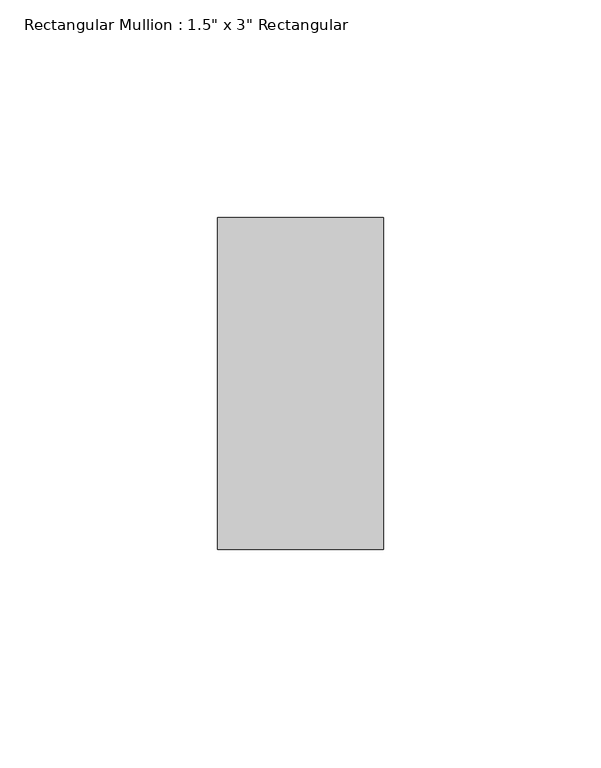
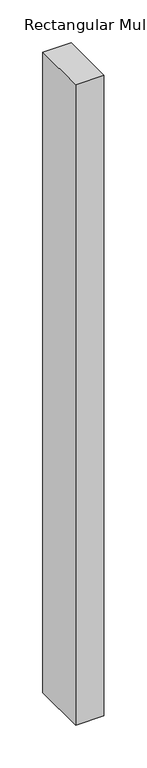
"""IFC4 building model written with IfcOpenShell, lengths in millimetres: member geometry."""

import ifcopenshell
import ifcopenshell.guid

model = None  # the IFC model being written
_history = None  # IfcOwnerHistory: only IFC2X3 demands one
_inside = {}  # id of a spatial element -> (the spatial element, [elements in it])
_under = {}  # id of a project, library or spatial element -> (it, [spatial elements below it])
_declared = {}  # id of a project -> (the project, [libraries it declares])
_typed = {}  # id of a type object -> (the type object, [elements of that type])
_made_of = {}  # id of a material, layer set ... -> (it, [elements and type objects made of it])


def new_model(schema):
    """Start an empty IFC model of exactly this schema.

    Asked for "IFC4X3", IfcOpenShell would pick the latest addendum, in which some entities
    have other attributes; the version numbers below select the first issue.
    IFC2X3 requires an IfcOwnerHistory on every rooted entity: one is made here for all.
    """
    global model, _history
    if schema == "IFC4X3":
        model = ifcopenshell.file(schema_version=(4, 3, 0, 0))
    else:
        model = ifcopenshell.file(schema=schema)
    _inside.clear()
    _under.clear()
    _declared.clear()
    _typed.clear()
    _made_of.clear()
    _history = None
    if model.schema == "IFC2X3":
        org = make("IfcOrganization", Name="unknown")
        user = make(
            "IfcPersonAndOrganization",
            ThePerson=make("IfcPerson", FamilyName="unknown"),
            TheOrganization=org,
        )
        app = make(
            "IfcApplication",
            ApplicationDeveloper=org,
            Version="unknown",
            ApplicationFullName="unknown",
            ApplicationIdentifier="unknown",
        )
        _history = make(
            "IfcOwnerHistory",
            OwningUser=user,
            OwningApplication=app,
            ChangeAction="ADDED",
            CreationDate=0,
        )
    return model


def make(cls, **values):
    """One entity of the class cls with the attributes given. An attribute that is None is left unset."""
    return model.create_entity(
        cls, **{name: value for name, value in values.items() if value is not None}
    )


def rooted(cls, **values):
    """An entity with a GlobalId (a new one), such as an element, a storey or a relation."""
    return make(cls, GlobalId=ifcopenshell.guid.new(), OwnerHistory=_history, **values)


def si_unit(unit_type, name, prefix=None):
    """IfcSIUnit, for example si_unit("LENGTHUNIT", "METRE", prefix="MILLI")."""
    return make("IfcSIUnit", UnitType=unit_type, Prefix=prefix, Name=name)


def assignment(units):
    """IfcUnitAssignment: the units of a project."""
    return None if units is None else make("IfcUnitAssignment", Units=units)


def point(xyz):
    """IfcCartesianPoint."""
    return None if xyz is None else make("IfcCartesianPoint", Coordinates=xyz)


def direction(xyz):
    """IfcDirection."""
    return None if xyz is None else make("IfcDirection", DirectionRatios=xyz)


def frame(location, z_axis=None, x_axis=None):
    """IfcAxis2Placement3D, a coordinate frame: its origin and axes. An axis left out is left unset."""
    return make(
        "IfcAxis2Placement3D",
        Location=point(location),
        Axis=direction(z_axis),
        RefDirection=direction(x_axis),
    )


def origin():
    """The frame at (0, 0, 0) with its axes left unset."""
    return frame((0.0, 0.0, 0.0))


def place(relative_to, where):
    """IfcLocalPlacement: puts the frame where relative to a parent placement (None: the world)."""
    return make(
        "IfcLocalPlacement", PlacementRelTo=relative_to, RelativePlacement=where
    )


def context(
    kind, dimensions, precision=None, world=None, true_north=None, identifier=None
):
    """IfcGeometricRepresentationContext, for example the 3D "Model" context."""
    return make(
        "IfcGeometricRepresentationContext",
        ContextIdentifier=identifier,
        ContextType=kind,
        CoordinateSpaceDimension=dimensions,
        Precision=precision,
        WorldCoordinateSystem=world,
        TrueNorth=true_north,
    )


def project(units=None, contexts=None):
    """IfcProject with its units and contexts."""
    return rooted(
        "IfcProject",
        Name="project",
        RepresentationContexts=contexts,
        UnitsInContext=assignment(units),
    )


def spatial(cls, under=None, at=None, **own):
    """A site, building, storey or space (cls), placed at a placement, below another one or the project."""
    s = rooted(cls, ObjectPlacement=at, **own)
    if under is not None:
        _under.setdefault(under.id(), (under, []))[1].append(s)
    return s


def polyline(points):
    """IfcPolyline through the points."""
    return make("IfcPolyline", Points=[point(p) for p in points])


def outline(outer, holes=None, kind="AREA"):
    """IfcArbitraryClosedProfileDef: a profile drawn as a closed curve; with holes, ...WithVoids."""
    if holes is None:
        return make("IfcArbitraryClosedProfileDef", ProfileType=kind, OuterCurve=outer)
    return make(
        "IfcArbitraryProfileDefWithVoids",
        ProfileType=kind,
        OuterCurve=outer,
        InnerCurves=holes,
    )


def extrude(swept, where, along, depth):
    """IfcExtrudedAreaSolid: the profile swept, set in the frame where, extruded along a direction by depth."""
    return make(
        "IfcExtrudedAreaSolid",
        SweptArea=swept,
        Position=where,
        ExtrudedDirection=direction(along),
        Depth=depth,
    )


def shape(context_of_items, identifier, shape_type, items):
    """IfcShapeRepresentation: the items that make up one representation, for example the "Body"."""
    return make(
        "IfcShapeRepresentation",
        ContextOfItems=context_of_items,
        RepresentationIdentifier=identifier,
        RepresentationType=shape_type,
        Items=items,
    )


def source(mapping_origin, context_of_items, identifier, shape_type, items):
    """IfcRepresentationMap: a shape defined once, which mapped items show again and again."""
    return make(
        "IfcRepresentationMap",
        MappingOrigin=mapping_origin,
        MappedRepresentation=shape(context_of_items, identifier, shape_type, items),
    )


def transform(
    local_origin,
    x_axis=None,
    y_axis=None,
    z_axis=None,
    scale=None,
    scale2=None,
    scale3=None,
    uniform=True,
):
    """IfcCartesianTransformationOperator3D, or its non-uniform kind. x_axis, y_axis, z_axis: its Axis1, 2, 3."""
    if uniform:
        return make(
            "IfcCartesianTransformationOperator3D",
            Axis1=direction(x_axis),
            Axis2=direction(y_axis),
            LocalOrigin=point(local_origin),
            Scale=scale,
            Axis3=direction(z_axis),
        )
    return make(
        "IfcCartesianTransformationOperator3DnonUniform",
        Axis1=direction(x_axis),
        Axis2=direction(y_axis),
        LocalOrigin=point(local_origin),
        Scale=scale,
        Axis3=direction(z_axis),
        Scale2=scale2,
        Scale3=scale3,
    )


def mapped(mapping_source, mapping_target):
    """IfcMappedItem: shows the shape of a source again, moved by a transform."""
    return make(
        "IfcMappedItem", MappingSource=mapping_source, MappingTarget=mapping_target
    )


def made_of(thing, what):
    """Note that an element or type object is made of a material, layer set ...; save() writes the relation."""
    if what is not None:
        _made_of.setdefault(what.id(), (what, []))[1].append(thing)
    return thing


def element(
    cls,
    number,
    at=None,
    inside=None,
    cuts=None,
    type_object=None,
    material=None,
    context=None,
    identifier="Body",
    shape_type=None,
    held_by="IfcProductDefinitionShape",
    body=None,
    shapes=None,
    **own,
):
    """One element of the class cls, such as IfcWall. Its Tag is "e" and its number.

    at: its placement. inside: the storey or other place that contains it. cuts: it is an
    opening in that element (IfcRelVoidsElement). A single representation is given by context,
    identifier, shape_type and body (its items); several are given by shapes. held_by: the class
    of the entity that holds the representations. save() writes the other relations.
    """
    e = rooted(cls, Tag="e%d" % number, ObjectPlacement=at, **own)
    if body is not None:
        shapes = [shape(context, identifier, shape_type, body)]
    if shapes is not None:
        e.Representation = make(held_by, Representations=shapes)
    if inside is not None:
        _inside.setdefault(inside.id(), (inside, []))[1].append(e)
    if cuts is not None:
        rooted(
            "IfcRelVoidsElement", RelatingBuildingElement=cuts, RelatedOpeningElement=e
        )
    if type_object is not None:
        _typed.setdefault(type_object.id(), (type_object, []))[1].append(e)
    return made_of(e, material)


def aggregate(whole, parts):
    """IfcRelAggregates: a whole, such as a stair, and the parts it consists of."""
    return rooted("IfcRelAggregates", RelatingObject=whole, RelatedObjects=parts)


def save(model, path):
    """Write the relations noted so far, then the file.

    IfcRelAggregates (storeys below a building ...), IfcRelContainedInSpatialStructure (elements
    in a storey), IfcRelDefinesByType, IfcRelAssociatesMaterial and IfcRelDeclares: one each for
    every whole, place, type object, material and project.
    """
    for whole, parts in _under.values():
        aggregate(whole, parts)
    for where, things in _inside.values():
        rooted(
            "IfcRelContainedInSpatialStructure",
            RelatedElements=things,
            RelatingStructure=where,
        )
    for kind, things in _typed.values():
        rooted("IfcRelDefinesByType", RelatedObjects=things, RelatingType=kind)
    for what, things in _made_of.values():
        rooted("IfcRelAssociatesMaterial", RelatedObjects=things, RelatingMaterial=what)
    for by, libraries in _declared.values():
        rooted("IfcRelDeclares", RelatingContext=by, RelatedDefinitions=libraries)
    model.write(path)


def member_c32c0941(model_context):
    return source(origin(), model_context, "Body", "SweptSolid", [
        extrude(outline(polyline([(0.0, 38.1), (0.0, -38.1), (-38.1, -38.1), (-38.1, 38.1), (0.0, 38.1)])), frame((0.0, 0.0, -910.9363636), z_axis=(0.0, 0.0, 1.0), x_axis=(1.0, 0.0, 0.0)), (0.0, 0.0, 1.0), 910.9363636),
    ])


if __name__ == "__main__":
    model = new_model("IFC4")
    model_context = context("Model", 3, world=origin())
    ifc_project = project(units=[si_unit("LENGTHUNIT", "METRE", prefix="MILLI")], contexts=[model_context])
    site = spatial("IfcSite", under=ifc_project)
    building = spatial("IfcBuilding", under=site)
    placement = place(None, origin())
    member_shape = member_c32c0941(model_context)
    element("IfcMember", 1, ObjectType="Rectangular Mullion : 1.5\" x 3\" Rectangular", at=placement, inside=building, context=model_context, shape_type="MappedRepresentation", body=[
        mapped(member_shape, transform((0.0, 0.0, 0.0), x_axis=(1.0, 0.0, 0.0), y_axis=(0.0, 1.0, 0.0), z_axis=(0.0, 0.0, 1.0))),
    ])
    save(model, "model.ifc")
